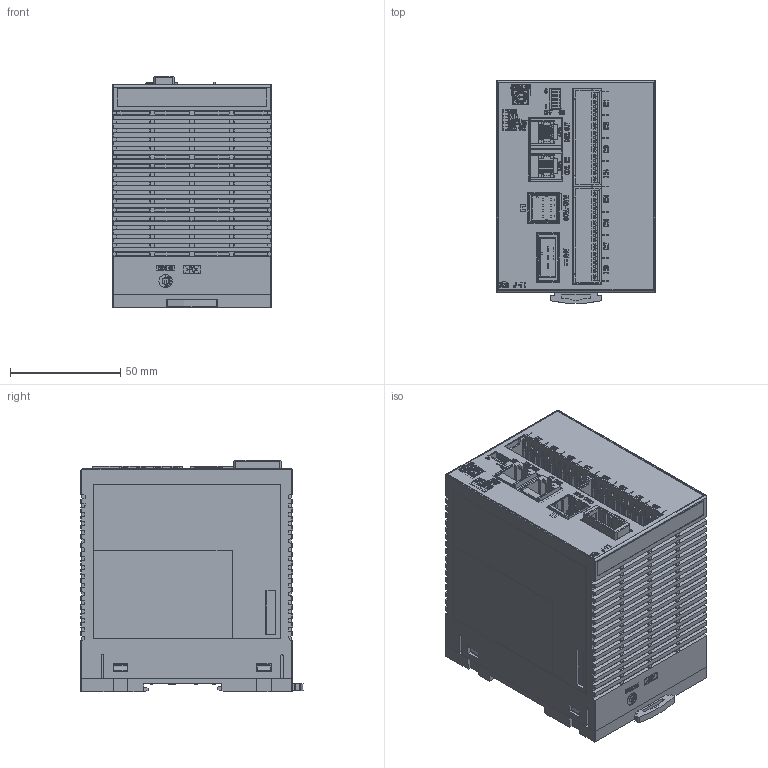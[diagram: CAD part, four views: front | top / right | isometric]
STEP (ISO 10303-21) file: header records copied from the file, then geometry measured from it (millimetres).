
FILE_DESCRIPTION (( 'STEP AP203' ), '1' );
FILE_NAME ('SRJ(J-TI-B)_WEB_1512.STEP', '2017-04-06T06:16:04', ( 'a' ), ( 'Microsoft' ), 'SwSTEP 2.0', 'SolidWorks 2016', '' );
FILE_SCHEMA (( 'CONFIG_CONTROL_DESIGN' ));
Length unit declared in the file: millimetre
Products named in the file (3): SRJ(J-TI-B基本設計)_WEB; KSRZ-54(1)_WEB_デフォルト; SRJ(J-TI-B)_WEB_1512
Assembly tree (2 placements, depth 2):
  SRJ(J-TI-B)_WEB_1512
    SRJ(J-TI-B基本設計)_WEB
    KSRZ-54(1)_WEB_デフォルト
Bounding box: 72 x 100.86 x 104.8 mm (x, y, z)
Volume: 753244.2 mm3; surface area: 102535.6 mm2
Topology: 3 solids, 8 shells, 6997 faces, 19731 edges, 13024 vertices
Faces by surface type: plane 5261, bspline 895, cylinder 694, torus 78, cone 65, sphere 4
Entity records: 254952 total; most frequent: CARTESIAN_POINT 79086, ORIENTED_EDGE 39438, DIRECTION 31220, EDGE_CURVE 19719, LINE 16342, VECTOR 16342, VERTEX_POINT 13016, EDGE_LOOP 7443
